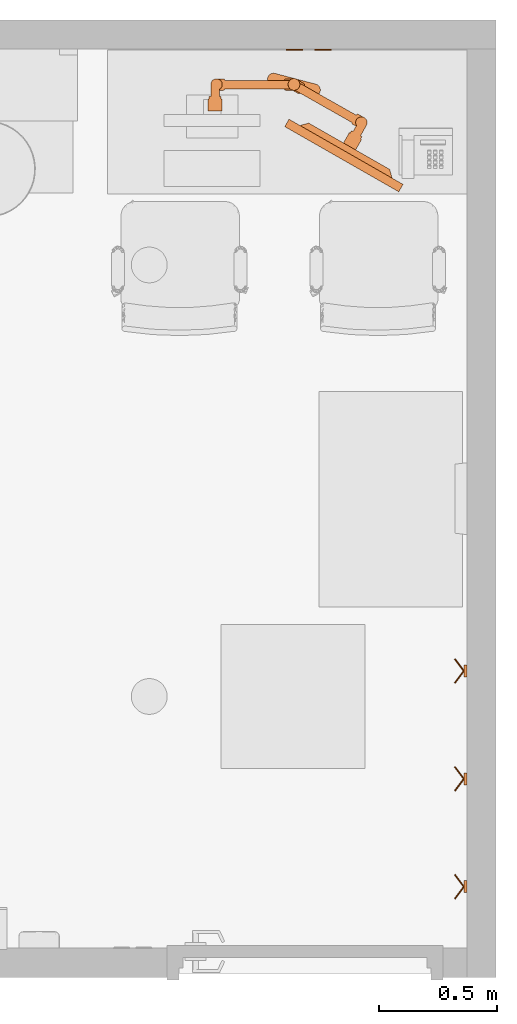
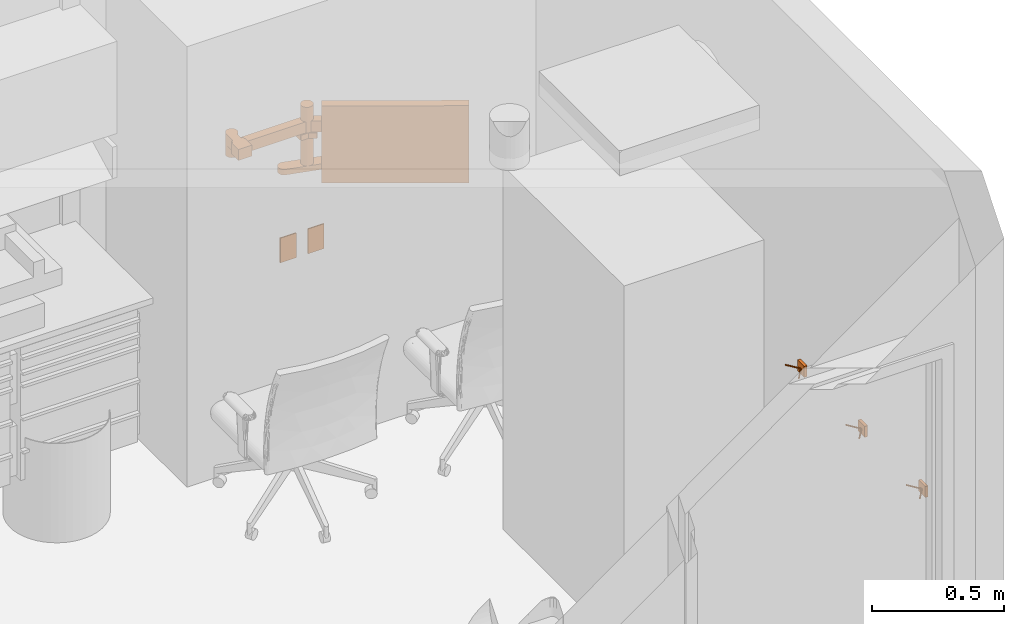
# One storey, part 11 of 15: 7 proxies.
"""IFC2X3 building model written with IfcOpenShell, lengths in feet."""

from ifc_helpers import new_model, entity, si_unit, converted_unit, derived_unit, direction, frame, frame_2d, origin, origin_2d_with_axis, place, context, subcontext, project, spatial, polyline, circle_curve, parameter, trimmed, segment, composite_curve, rectangle, circle, outline, extrude, source, transform, mapped, type_object, type_shapes, element, save


model = new_model("IFC2X3")

# Units and contexts
model_context = context("Model", 3, precision=0.0001, world=origin(), true_north=direction((6.12303176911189e-17, 1.0)))
body_context = subcontext(model_context, "Body", "Model", "MODEL_VIEW")
ifc_project = project(units=[converted_unit("LENGTHUNIT", "FOOT", entity("IfcRatioMeasure", 0.3048), si_unit("LENGTHUNIT", "METRE"), dimensions=[1, 0, 0, 0, 0, 0, 0]), converted_unit("AREAUNIT", "SQUARE FOOT", entity("IfcRatioMeasure", 0.09290304), si_unit("AREAUNIT", "SQUARE_METRE"), dimensions=[2, 0, 0, 0, 0, 0, 0]), converted_unit("VOLUMEUNIT", "CUBIC FOOT", entity("IfcRatioMeasure", 0.028316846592), si_unit("VOLUMEUNIT", "CUBIC_METRE"), dimensions=[3, 0, 0, 0, 0, 0, 0]), converted_unit("PLANEANGLEUNIT", "DEGREE", entity("IfcRatioMeasure", 0.0174532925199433), si_unit("PLANEANGLEUNIT", "RADIAN"), dimensions=[0, 0, 0, 0, 0, 0, 0]), si_unit("MASSUNIT", "GRAM", prefix="KILO"), derived_unit("MASSDENSITYUNIT", [(si_unit("MASSUNIT", "GRAM", prefix="KILO"), 1), (si_unit("LENGTHUNIT", "METRE"), -3)]), si_unit("TIMEUNIT", "SECOND"), si_unit("FREQUENCYUNIT", "HERTZ"), si_unit("THERMODYNAMICTEMPERATUREUNIT", "DEGREE_CELSIUS"), derived_unit("THERMALTRANSMITTANCEUNIT", [(si_unit("MASSUNIT", "GRAM", prefix="KILO"), 1), (si_unit("THERMODYNAMICTEMPERATUREUNIT", "KELVIN"), -1), (si_unit("TIMEUNIT", "SECOND"), -3)]), derived_unit("VOLUMETRICFLOWRATEUNIT", [(si_unit("LENGTHUNIT", "METRE"), 3), (si_unit("TIMEUNIT", "SECOND"), -1)]), si_unit("ELECTRICCURRENTUNIT", "AMPERE"), si_unit("ELECTRICVOLTAGEUNIT", "VOLT"), si_unit("POWERUNIT", "WATT"), si_unit("FORCEUNIT", "NEWTON"), si_unit("ILLUMINANCEUNIT", "LUX"), si_unit("LUMINOUSFLUXUNIT", "LUMEN"), si_unit("LUMINOUSINTENSITYUNIT", "CANDELA"), derived_unit("USERDEFINED", [(si_unit("MASSUNIT", "GRAM", prefix="KILO"), -1), (si_unit("LENGTHUNIT", "METRE"), -2), (si_unit("TIMEUNIT", "SECOND"), 3), (si_unit("LUMINOUSFLUXUNIT", "LUMEN"), 1)]), derived_unit("LINEARVELOCITYUNIT", [(si_unit("LENGTHUNIT", "METRE"), 1), (si_unit("TIMEUNIT", "SECOND"), -1)]), si_unit("PRESSUREUNIT", "PASCAL"), derived_unit("USERDEFINED", [(si_unit("LENGTHUNIT", "METRE"), -2), (si_unit("MASSUNIT", "GRAM", prefix="KILO"), 1), (si_unit("TIMEUNIT", "SECOND"), -2)])], contexts=[model_context])

# Site, building, storey, space
site_placement = place(None, origin())
site = spatial("IfcSite", under=ifc_project, at=site_placement, Name="Default", CompositionType="ELEMENT")
building_placement = place(site_placement, origin())
building = spatial("IfcBuilding", under=site, at=building_placement, Name="EYE CLINIC:  OPTHALMOLOGY AND OPTOMETRY SERVICES (Ch. 233)", CompositionType="ELEMENT")
storey_placement = place(building_placement, origin())
storey = spatial("IfcBuildingStorey", under=building, at=storey_placement, Name="DATUM", CompositionType="ELEMENT", Elevation=0.0)
space_placement = place(storey_placement, origin())
space = spatial("IfcSpace", under=storey, at=space_placement, Name="(OPLV2)", CompositionType="ELEMENT", InteriorOrExteriorSpace="INTERNAL")

# Proxies
building_element_proxy_type_1 = type_object("IfcBuildingElementProxyType", Name="A5225 - Dual  Flat Panel Monitor ARMS", PredefinedType="NOTDEFINED")
shared_shape_1 = source(origin(), body_context, "Body", "SweptSolid", [
    extrude(outline(composite_curve([segment(trimmed(circle_curve(frame_2d((-0.790855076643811, -0.00490841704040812), x_axis=(0.254554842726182, -0.967058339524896)), 0.0820209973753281), [parameter(25.1937534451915)], [parameter(117.785704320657)], True, "PARAMETER"), False, "CONTINUOUS"), segment(polyline([(-0.738197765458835, -0.0677944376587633), (0.171197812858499, -0.0677944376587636)]), True, "CONTINUOUS"), segment(trimmed(circle_curve(frame_2d((0.188411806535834, -0.0675795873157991), x_axis=(0.254554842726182, -0.967058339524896)), 0.0172153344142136), [parameter(255.967870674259)], [parameter(345.252790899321)], True, "PARAMETER"), True, "CONTINUOUS"), segment(polyline([(0.188411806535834, -0.0847949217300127), (0.288518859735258, -0.0847949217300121)]), True, "CONTINUOUS"), segment(trimmed(circle_curve(frame_2d((0.286061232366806, -0.0049273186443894), x_axis=(0.254554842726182, -0.967058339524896)), 0.0799054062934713), [parameter(347.01529850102)], [parameter(165.252790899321)], True, "PARAMETER"), True, "CONTINUOUS"), segment(polyline([(0.286061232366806, 0.0749780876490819), (0.192029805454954, 0.0749780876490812)]), True, "CONTINUOUS"), segment(trimmed(circle_curve(frame_2d((0.192029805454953, 0.0541447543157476), x_axis=(0.254554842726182, -0.967058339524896)), 0.0208333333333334), [parameter(165.252790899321)], [parameter(255.252790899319)], True, "PARAMETER"), True, "CONTINUOUS"), segment(polyline([(0.17119647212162, 0.0541447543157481), (0.17119647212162, 0.0505388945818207)]), True, "CONTINUOUS"), segment(polyline([(0.17119647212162, 0.0505388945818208), (-0.730414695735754, 0.0505388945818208)]), True, "CONTINUOUS")], self_intersect=False)), frame((-0.766443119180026, 0.426874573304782, 0.588770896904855), z_axis=(0.0, 0.0, -1.0), x_axis=(-0.967058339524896, -0.25455484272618, 0.0)), (0.0, 0.0, -1.0), 0.166666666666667),
    extrude(outline(composite_curve([segment(trimmed(circle_curve(frame_2d((-0.0257333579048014, -0.00677368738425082), x_axis=(1.0, 0.0)), 0.0799054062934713), [parameter(194.747209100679)], [parameter(12.9847014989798)], True, "PARAMETER"), True, "CONTINUOUS"), segment(polyline([(0.0521288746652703, 0.0111803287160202), (0.0508776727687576, 0.015933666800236)]), True, "CONTINUOUS"), segment(trimmed(circle_curve(frame_2d((-0.0257333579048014, -0.00677368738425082), x_axis=(1.0, 0.0)), 0.0799054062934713), [parameter(16.5097167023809)], [parameter(194.747209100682)], True, "PARAMETER"), True, "CONTINUOUS")], self_intersect=False)), frame((-1.03505305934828, 0.323557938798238, 0.755437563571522), z_axis=(0.0, 0.0, 1.0), x_axis=(0.0, -1.0, 0.0)), (0.0, 0.0, 1.0), 0.166666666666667),
    extrude(outline(composite_curve([segment(trimmed(circle_curve(frame_2d((0.0724992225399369, 0.012189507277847), x_axis=(1.0, 0.0)), 0.059894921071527), [parameter(284.74720910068)], [parameter(104.747026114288)], True, "PARAMETER"), True, "CONTINUOUS"), segment(polyline([(0.0572528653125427, 0.0701114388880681), (-0.0376511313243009, 0.0451305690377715)]), True, "CONTINUOUS"), segment(trimmed(circle_curve(frame_2d((-0.0944490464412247, -0.0110732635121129), x_axis=(1.0, 0.0)), 0.0799054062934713), [parameter(16.5097167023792)], [parameter(44.6987824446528)], True, "PARAMETER"), False, "CONTINUOUS"), segment(polyline([(-0.0178380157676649, 0.0116340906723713), (-0.0165868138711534, 0.00688075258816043)]), True, "CONTINUOUS"), segment(trimmed(circle_curve(frame_2d((-0.0944490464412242, -0.0110732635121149), x_axis=(1.0, 0.0)), 0.0799054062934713), [parameter(285.628462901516)], [parameter(12.984701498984)], True, "PARAMETER"), False, "CONTINUOUS"), segment(polyline([(-0.0729226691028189, -0.0880244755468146), (0.087745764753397, -0.045732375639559)]), True, "CONTINUOUS")], self_intersect=False)), frame((-1.03075348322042, 0.254842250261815, 0.755437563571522), z_axis=(0.0, 0.0, 1.0), x_axis=(0.0, -1.0, 0.0)), (0.0, 0.0, 1.0), 0.166666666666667),
    extrude(outline(composite_curve([segment(polyline([(0.0602572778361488, -0.0554648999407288), (0.0827848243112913, -0.0554648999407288)]), True, "CONTINUOUS"), segment(polyline([(0.0827848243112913, -0.0554648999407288), (0.0827848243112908, -0.0179714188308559)]), True, "CONTINUOUS"), segment(polyline([(0.0827848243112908, -0.0179714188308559), (0.0978778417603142, -0.0179714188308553)]), True, "CONTINUOUS"), segment(polyline([(0.0978778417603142, -0.0179714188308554), (0.0978778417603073, 0.147303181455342)]), True, "CONTINUOUS"), segment(polyline([(0.0978778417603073, 0.147303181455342), (-0.0971477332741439, 0.146442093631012)]), True, "CONTINUOUS"), segment(polyline([(-0.0971477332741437, 0.146442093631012), (-0.0971477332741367, -0.0179714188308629)]), True, "CONTINUOUS"), segment(polyline([(-0.0971477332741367, -0.0179714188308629), (-0.0838818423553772, -0.0179714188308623)]), True, "CONTINUOUS"), segment(polyline([(-0.0838818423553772, -0.0179714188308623), (-0.0838818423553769, -0.0554648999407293)]), True, "CONTINUOUS"), segment(polyline([(-0.0838818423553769, -0.0554648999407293), (-0.0595234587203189, -0.0554648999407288)]), True, "CONTINUOUS"), segment(trimmed(circle_curve(frame_2d((0.000366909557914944, -0.0547264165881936), x_axis=(0.2545517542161, 0.967059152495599)), 0.059894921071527), [parameter(284.040571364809)], [parameter(105.453480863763)], True, "PARAMETER"), False, "CONTINUOUS")], self_intersect=False)), frame((-1.00427844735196, 0.129512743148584, 0.755437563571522), z_axis=(0.0, 0.0, 1.0), x_axis=(-0.9670591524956, -0.254551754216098, 0.0)), (0.0, 0.0, 1.0), 0.166666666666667),
    extrude(outline(composite_curve([segment(polyline([(-0.0382992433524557, -0.0723910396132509), (-0.0325648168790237, -0.0941765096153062)]), True, "CONTINUOUS"), segment(polyline([(-0.0325648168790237, -0.0941765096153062), (0.00369359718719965, -0.0846324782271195)]), True, "CONTINUOUS"), segment(polyline([(0.00369359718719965, -0.0846324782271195), (0.0075355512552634, -0.0992283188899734)]), True, "CONTINUOUS"), segment(polyline([(0.0075355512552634, -0.0992283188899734), (0.16736586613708, -0.0571573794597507)]), True, "CONTINUOUS"), segment(polyline([(0.16736586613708, -0.0571573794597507), (0.116889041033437, 0.131224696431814)]), True, "CONTINUOUS"), segment(polyline([(0.116889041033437, 0.131224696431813), (-0.0421085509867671, 0.0893729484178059)]), True, "CONTINUOUS"), segment(polyline([(-0.0421085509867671, 0.0893729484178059), (-0.0387316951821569, 0.0765440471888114)]), True, "CONTINUOUS"), segment(polyline([(-0.0387316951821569, 0.0765440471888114), (-0.0749901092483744, 0.0670000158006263)]), True, "CONTINUOUS"), segment(polyline([(-0.0749901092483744, 0.0670000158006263), (-0.0687896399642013, 0.0434440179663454)]), True, "CONTINUOUS"), segment(trimmed(circle_curve(frame_2d((-0.0528302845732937, -0.0142855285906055), x_axis=(1.0, 0.0)), 0.059894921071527), [parameter(284.040571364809)], [parameter(105.453480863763)], True, "PARAMETER"), False, "CONTINUOUS")], self_intersect=False)), frame((1.0034971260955, 0.129512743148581, 0.755437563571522), z_axis=(0.0, 0.0, -1.0), x_axis=(0.0, -1.0, 0.0)), (0.0, 0.0, -1.0), 0.166666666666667),
    extrude(outline(composite_curve([segment(polyline([(-0.0732138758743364, -0.0665619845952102), (0.0929275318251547, -0.0665619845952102)]), True, "CONTINUOUS"), segment(trimmed(circle_curve(frame_2d((0.0941564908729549, 0.0133339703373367), x_axis=(-0.967058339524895, -0.254554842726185)), 0.0799054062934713), [parameter(347.015298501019)], [parameter(74.3715370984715)], True, "PARAMETER"), False, "CONTINUOUS"), segment(polyline([(0.0142888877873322, 0.0108763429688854), (0.0142888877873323, 0.0157915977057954)]), True, "CONTINUOUS"), segment(trimmed(circle_curve(frame_2d((0.0941564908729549, 0.013333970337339), x_axis=(-0.967058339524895, -0.254554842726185)), 0.0799054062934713), [parameter(315.301217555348)], [parameter(343.490283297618)], True, "PARAMETER"), False, "CONTINUOUS"), segment(polyline([(0.0249226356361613, 0.0532281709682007), (-0.0732140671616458, 0.0532278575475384)]), True, "CONTINUOUS"), segment(trimmed(circle_curve(frame_2d((-0.0732138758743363, -0.00666706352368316), x_axis=(-0.967058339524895, -0.254554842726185)), 0.059894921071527), [parameter(255.252973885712)], [parameter(75.2527908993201)], True, "PARAMETER"), True, "CONTINUOUS")], self_intersect=False)), frame((1.02997216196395, 0.254842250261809, 0.755437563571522), z_axis=(0.0, 0.0, 1.0), x_axis=(0.254554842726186, 0.967058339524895, 0.0)), (0.0, 0.0, 1.0), 0.166666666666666),
    extrude(outline(composite_curve([segment(trimmed(circle_curve(frame_2d((-0.0257333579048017, 0.00677368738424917), x_axis=(1.0, 0.0)), 0.0799054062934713), [parameter(165.252790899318)], [parameter(343.490283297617)], True, "PARAMETER"), True, "CONTINUOUS"), segment(polyline([(0.0508776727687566, -0.01593366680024), (0.0521288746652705, -0.0111803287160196)]), True, "CONTINUOUS"), segment(trimmed(circle_curve(frame_2d((-0.0257333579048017, 0.00677368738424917), x_axis=(1.0, 0.0)), 0.0799054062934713), [parameter(347.015298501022)], [parameter(165.25279089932)], True, "PARAMETER"), True, "CONTINUOUS")], self_intersect=False)), frame((1.03427173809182, 0.323557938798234, 0.755437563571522), z_axis=(0.0, 0.0, 1.0), x_axis=(0.0, -1.0, 0.0)), (0.0, 0.0, 1.0), 0.166666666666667),
    extrude(circle(Radius=0.0820209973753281, at=frame_2d((-2.3534863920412e-31, 1.32489505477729e-16), x_axis=(1.0, 0.0))), frame((-0.000390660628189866, 0.624030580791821, 0.588770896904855), z_axis=(0.0, 0.0, 1.0), x_axis=(0.0, -1.0, 0.0)), (0.0, 0.0, 1.0), 0.385601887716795),
    extrude(outline(composite_curve([segment(polyline([(-0.234804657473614, 0.693488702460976), (-0.00529516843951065, -0.178421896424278)]), True, "CONTINUOUS"), segment(polyline([(-0.00529516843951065, -0.178421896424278), (-0.00878224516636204, -0.179339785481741)]), True, "CONTINUOUS"), segment(trimmed(circle_curve(frame_2d((-0.00347901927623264, -0.199486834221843), x_axis=(1.0, 0.0)), 0.0208333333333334), [parameter(104.747209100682)], [parameter(194.747209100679)], True, "PARAMETER"), True, "CONTINUOUS"), segment(polyline([(-0.0236260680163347, -0.204790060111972), (0.000310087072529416, -0.295723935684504)]), True, "CONTINUOUS"), segment(trimmed(circle_curve(frame_2d((0.0775832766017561, -0.275383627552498), x_axis=(1.0, 0.0)), 0.0799054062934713), [parameter(194.747209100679)], [parameter(12.9847014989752)], True, "PARAMETER"), True, "CONTINUOUS"), segment(polyline([(0.155445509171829, -0.257429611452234), (0.129962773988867, -0.160620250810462)]), True, "CONTINUOUS"), segment(trimmed(circle_curve(frame_2d((0.113314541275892, -0.16500249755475), x_axis=(1.0, 0.0)), 0.0172153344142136), [parameter(14.7472091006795)], [parameter(104.032129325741)], True, "PARAMETER"), True, "CONTINUOUS"), segment(polyline([(0.109140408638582, -0.148300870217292), (-0.122350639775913, 0.731137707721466)]), True, "CONTINUOUS"), segment(trimmed(circle_curve(frame_2d((-0.196569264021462, 0.76605245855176), x_axis=(1.0, 0.0)), 0.0820209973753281), [parameter(242.214295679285)], [parameter(334.806246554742)], True, "PARAMETER"), False, "CONTINUOUS")], self_intersect=False)), frame((0.765661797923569, 0.426874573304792, 0.588770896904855), z_axis=(0.0, 0.0, -1.0), x_axis=(0.0, -1.0, 0.0)), (0.0, 0.0, -1.0), 0.166666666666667),
    extrude(outline(composite_curve([segment(polyline([(-0.0275603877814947, -0.104702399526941), (0.104720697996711, -0.104702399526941)]), True, "CONTINUOUS"), segment(trimmed(circle_curve(frame_2d((0.104720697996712, -0.0838690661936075), x_axis=(0.254554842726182, 0.967058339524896)), 0.0208333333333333), [parameter(194.747209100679)], [parameter(284.74720910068)], True, "PARAMETER"), True, "CONTINUOUS"), segment(polyline([(0.125554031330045, -0.0838690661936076), (0.125554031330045, 0.0378552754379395)]), True, "CONTINUOUS"), segment(trimmed(circle_curve(frame_2d((0.108338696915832, 0.0378552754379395), x_axis=(0.254554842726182, 0.967058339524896)), 0.0172153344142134), [parameter(284.747209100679)], [parameter(14.7472091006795)], True, "PARAMETER"), True, "CONTINUOUS"), segment(polyline([(0.108338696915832, 0.0550706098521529), (0.0144960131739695, 0.055070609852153)]), True, "CONTINUOUS"), segment(polyline([(0.0144960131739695, 0.055070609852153), (-0.0671850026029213, 0.101273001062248)]), True, "CONTINUOUS"), segment(trimmed(circle_curve(frame_2d((-0.0756607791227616, 0.0862887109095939), x_axis=(0.254554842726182, 0.967058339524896)), 0.0172153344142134), [parameter(345.25279089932)], [parameter(75.2527908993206)], True, "PARAMETER"), True, "CONTINUOUS"), segment(polyline([(-0.0906450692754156, 0.0947644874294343), (-0.150574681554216, -0.0111848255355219)]), True, "CONTINUOUS"), segment(trimmed(circle_curve(frame_2d((-0.132441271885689, -0.0214418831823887), x_axis=(0.254554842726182, 0.967058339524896)), 0.0208333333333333), [parameter(75.2527908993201)], [parameter(165.25279089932)], True, "PARAMETER"), True, "CONTINUOUS"), segment(polyline([(-0.142698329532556, -0.0395752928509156), (-0.0275603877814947, -0.104702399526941)]), True, "CONTINUOUS")], self_intersect=False)), frame((-0.000390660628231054, 0.597782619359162, 0.505437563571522), z_axis=(0.0, 0.0, 1.0), x_axis=(-0.967058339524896, -0.254554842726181, 0.0)), (0.0, 0.0, 1.0), 0.083333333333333),
    extrude(circle(Radius=0.0820209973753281, at=frame_2d((-2.3534863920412e-31, 1.32489505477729e-16), x_axis=(1.0, 0.0))), frame((-0.000390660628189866, 0.623443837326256, 0.0887708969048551), z_axis=(0.0, 0.0, 1.0), x_axis=(0.0, -1.0, 0.0)), (0.0, 0.0, 1.0), 0.416666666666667),
    extrude(outline(composite_curve([segment(trimmed(circle_curve(frame_2d((0.0, -0.295275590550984), x_axis=(1.0, 0.0)), 0.0820209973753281), [parameter(180.0)], [parameter(360.0)], True, "PARAMETER"), True, "CONTINUOUS"), segment(polyline([(0.0820209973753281, -0.295275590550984), (0.0820209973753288, 0.295275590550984)]), True, "CONTINUOUS"), segment(trimmed(circle_curve(frame_2d((0.0, 0.295275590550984), x_axis=(1.0, 0.0)), 0.0820209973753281), [parameter(0.0)], [parameter(180.0)], True, "PARAMETER"), True, "CONTINUOUS"), segment(polyline([(-0.0820209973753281, 0.295275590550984), (-0.0820209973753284, -0.295275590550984)]), True, "CONTINUOUS")], self_intersect=False)), frame((-0.000390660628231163, 0.623443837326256, 0.00543756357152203), z_axis=(0.0, 0.0, 1.0), x_axis=(0.0, -1.0, 0.0)), (0.0, 0.0, 1.0), 0.083333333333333),
])
type_shapes(building_element_proxy_type_1, [shared_shape_1])
proxy_1_placement = place(space_placement, frame((347.077269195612, 10.2138756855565, 3.0), z_axis=(0.0, 0.0, 1.0), x_axis=(0.967059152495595, -0.254551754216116, 0.0)))
element("IfcBuildingElementProxy", 1, at=proxy_1_placement, inside=space, type_object=building_element_proxy_type_1, Name="A5225 - Dual Monitor Arms:A5225 - Dual  Flat Panel Monitor ARMS", ObjectType="A5225 - Dual  Flat Panel Monitor ARMS", context=body_context, shape_type="MappedRepresentation", body=[
    mapped(shared_shape_1, transform((0.0, 0.0, 0.0), scale=1.0)),
])
building_element_proxy_type_2 = type_object("IfcBuildingElementProxyType", Name="M1800 - Computer with Double Flat Panel Monitors", PredefinedType="NOTDEFINED")
shared_shape_2 = source(origin(), body_context, "Body", "SweptSolid", [
    extrude(outline(polyline([(-0.648704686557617, -0.0446704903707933), (0.648704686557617, -0.0446704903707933), (0.738045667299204, 0.0446704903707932), (-0.738045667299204, 0.0446704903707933), (-0.648704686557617, -0.0446704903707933)])), frame((0.0, 0.0446704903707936, 0.255437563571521), z_axis=(0.0, 0.0, 1.0), x_axis=(-1.0, 0.0, 0.0)), (0.0, 0.0, 1.0), 0.999999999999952),
    extrude(rectangle(XDim=1.825, YDim=0.118992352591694, at=origin_2d_with_axis()), frame((-0.000550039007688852, -0.0594961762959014, 0.172104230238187), z_axis=(0.0, 0.0, 1.0), x_axis=(-1.0, 0.0, 0.0)), (0.0, 0.0, 1.0), 1.16666666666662),
])
type_shapes(building_element_proxy_type_2, [shared_shape_2])
proxy_2_placement = place(space_placement, frame((347.959774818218, 9.88071212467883, 3.0), z_axis=(0.0, 0.0, 1.0), x_axis=(0.868224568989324, -0.496171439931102, 0.0)))
element("IfcBuildingElementProxy", 2, at=proxy_2_placement, inside=space, type_object=building_element_proxy_type_2, Name="M1800 - Monitor, Computer:M1800 - Computer with Double Flat Panel Monitors", ObjectType="M1800 - Computer with Double Flat Panel Monitors", context=body_context, shape_type="MappedRepresentation", body=[
    mapped(shared_shape_2, transform((0.0, 0.0, 0.0), scale=1.0)),
])
building_element_proxy_type_3 = type_object("IfcBuildingElementProxyType", Name="A5145 - Hook, Garment, Double", PredefinedType="NOTDEFINED")
shared_shape_3 = source(origin(), body_context, "Body", "SweptSolid", [
    extrude(circle(Radius=0.0105952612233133, at=frame_2d((-1.64551454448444e-31, -4.16333634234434e-17), x_axis=(1.0, 0.0))), frame((-0.169086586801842, -0.168481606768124, 0.0833333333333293), z_axis=(0.799999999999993, 0.60000000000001, 0.0), x_axis=(0.60000000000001, -0.799999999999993, 0.0)), (0.0, 0.0, 1.0), 0.211358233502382),
    extrude(circle(Radius=0.0105952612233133, at=frame_2d((5.2041704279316e-19, 2.77555756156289e-17), x_axis=(1.0, 0.0))), frame((0.0, -0.0416666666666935, 0.083333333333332), z_axis=(0.799999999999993, -0.60000000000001, 0.0), x_axis=(-0.60000000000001, -0.799999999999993, 0.0)), (0.0, 0.0, 1.0), 0.211358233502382),
    extrude(rectangle(XDim=0.0416666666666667, YDim=0.166666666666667, at=origin_2d_with_axis()), frame((0.0, -0.0208333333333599, 0.0), z_axis=(0.0, 0.0, 1.0), x_axis=(0.0, 1.0, 0.0)), (0.0, 0.0, 1.0), 0.166666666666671),
])
type_shapes(building_element_proxy_type_3, [shared_shape_3])
for number, where, z_axis, x_axis, name in (
    (3, (349.639769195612, -0.338207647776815, 4.0), (0.0, 0.0, 1.0), (0.0, -1.0, 0.0), "A5145 - Hook, Garment, Double:A5145 - Hook, Garment, Double"),
    (4, (349.639769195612, 1.16179235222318, 4.0), (0.0, 0.0, 1.0), (0.0, -1.0, 0.0), "A5145 - Hook, Garment, Double:A5145 - Hook, Garment, Double"),
    (5, (349.639769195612, 2.66179235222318, 4.0), (0.0, 0.0, 1.0), (0.0, -1.0, 0.0), "A5145 - Hook, Garment, Double:A5145 - Hook, Garment, Double"),
):
    element("IfcBuildingElementProxy", number, at=place(space_placement, frame(where, z_axis=z_axis, x_axis=x_axis)), inside=space, type_object=building_element_proxy_type_3, Name=name, ObjectType="A5145 - Hook, Garment, Double", context=body_context, shape_type="MappedRepresentation", body=[
        mapped(shared_shape_3, transform((0.0, 0.0, 0.0), scale=1.0)),
    ])
building_element_proxy_type_4 = type_object("IfcBuildingElementProxyType", Name="Duplex", PredefinedType="NOTDEFINED")
shared_shape_4 = source(origin(), body_context, "Body", "SweptSolid", [
    extrude(rectangle(XDim=0.0156249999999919, YDim=0.229166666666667, at=origin_2d_with_axis()), frame((0.0, 0.210937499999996, 0.0), z_axis=(0.0, 0.0, 1.0), x_axis=(0.0, 1.0, 0.0)), (0.0, 0.0, 1.0), 0.37500000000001),
])
type_shapes(building_element_proxy_type_4, [shared_shape_4])
proxy_3_placement = place(space_placement, frame((347.639769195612, 11.5107506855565, 1.3125), z_axis=(0.0, 0.0, 1.0), x_axis=(-1.0, 0.0, 0.0)))
element("IfcBuildingElementProxy", 6, at=proxy_3_placement, inside=space, type_object=building_element_proxy_type_4, Name="Outlet, Duplex, Wall:Duplex", ObjectType="Duplex", context=body_context, shape_type="MappedRepresentation", body=[
    mapped(shared_shape_4, transform((0.0, 0.0, 0.0), scale=1.0)),
])
building_element_proxy_type_5 = type_object("IfcBuildingElementProxyType", Name="Telephone/Data", PredefinedType="NOTDEFINED")
shared_shape_5 = source(origin(), body_context, "Body", "SweptSolid", [
    extrude(rectangle(XDim=0.0156249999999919, YDim=0.229166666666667, at=origin_2d_with_axis()), frame((0.0, 0.210937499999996, 0.0), z_axis=(0.0, 0.0, 1.0), x_axis=(0.0, 1.0, 0.0)), (0.0, 0.0, 1.0), 0.375),
])
type_shapes(building_element_proxy_type_5, [shared_shape_5])
proxy_4_placement = place(space_placement, frame((347.243935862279, 11.5107506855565, 1.3125), z_axis=(0.0, 0.0, 1.0), x_axis=(-1.0, 0.0, 0.0)))
element("IfcBuildingElementProxy", 7, at=proxy_4_placement, inside=space, type_object=building_element_proxy_type_5, Name="Outlet, Communications:Telephone/Data", ObjectType="Telephone/Data", context=body_context, shape_type="MappedRepresentation", body=[
    mapped(shared_shape_5, transform((0.0, 0.0, 0.0), scale=1.0)),
])

save(model, "model.ifc")
